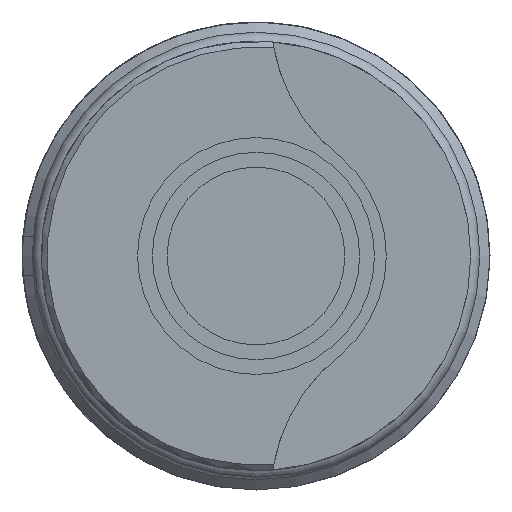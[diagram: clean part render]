
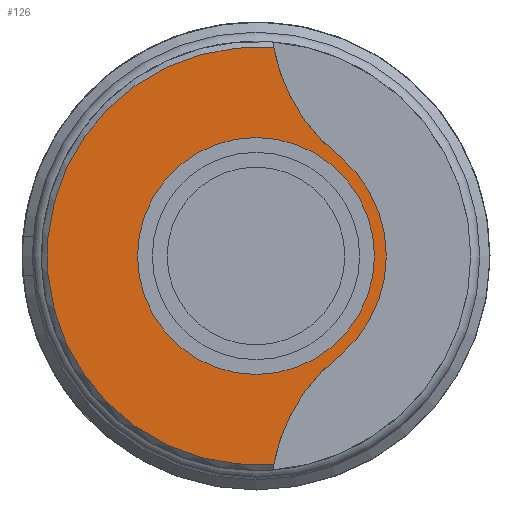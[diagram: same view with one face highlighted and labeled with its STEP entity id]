
A CAD part, left-side view. The second image highlights one B-rep face of the part: STEP entity #126.
In plain terms, the highlighted planar face has unit normal (-1, 0, 0).
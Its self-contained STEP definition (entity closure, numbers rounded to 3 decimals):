
#126 = ADVANCED_FACE( '', ( #277, #278 ), #279, .F. );
#277 = FACE_OUTER_BOUND( '', #444, .T. );
#278 = FACE_BOUND( '', #445, .T. );
#279 = PLANE( '', #446 );
#444 = EDGE_LOOP( '', ( #734, #735, #736, #737 ) );
#445 = EDGE_LOOP( '', ( #738 ) );
#446 = AXIS2_PLACEMENT_3D( '', #739, #740, #741 );
#734 = ORIENTED_EDGE( '', *, *, #974, .F. );
#735 = ORIENTED_EDGE( '', *, *, #990, .T. );
#736 = ORIENTED_EDGE( '', *, *, #914, .F. );
#737 = ORIENTED_EDGE( '', *, *, #991, .T. );
#738 = ORIENTED_EDGE( '', *, *, #992, .T. );
#739 = CARTESIAN_POINT( '', ( 0., 4., 0. ) );
#740 = DIRECTION( '', ( 1., 0., 0. ) );
#741 = DIRECTION( '', ( 0., 0., -1. ) );
#914 = EDGE_CURVE( '', #1079, #1080, #1081, .T. );
#974 = EDGE_CURVE( '', #1170, #1172, #1173, .T. );
#990 = EDGE_CURVE( '', #1170, #1080, #1194, .T. );
#991 = EDGE_CURVE( '', #1079, #1172, #1195, .T. );
#992 = EDGE_CURVE( '', #1196, #1196, #1197, .T. );
#1079 = VERTEX_POINT( '', #1305 );
#1080 = VERTEX_POINT( '', #1306 );
#1081 = CIRCLE( '', #1307, 4.4 );
#1170 = VERTEX_POINT( '', #1433 );
#1172 = VERTEX_POINT( '', #1438 );
#1173 = CIRCLE( '', #1439, 7.05 );
#1194 = CIRCLE( '', #1470, 6. );
#1195 = CIRCLE( '', #1471, 6. );
#1196 = VERTEX_POINT( '', #1472 );
#1197 = CIRCLE( '', #1473, 4. );
#1305 = CARTESIAN_POINT( '', ( 0., -2.893, 3.316 ) );
#1306 = CARTESIAN_POINT( '', ( 0., -2.893, -3.316 ) );
#1307 = AXIS2_PLACEMENT_3D( '', #1565, #1566, #1567 );
#1433 = CARTESIAN_POINT( '', ( 0., -0.599, -7.025 ) );
#1438 = CARTESIAN_POINT( '', ( 0., -0.599, 7.025 ) );
#1439 = AXIS2_PLACEMENT_3D( '', #1636, #1637, #1638 );
#1470 = AXIS2_PLACEMENT_3D( '', #1649, #1650, #1651 );
#1471 = AXIS2_PLACEMENT_3D( '', #1652, #1653, #1654 );
#1472 = CARTESIAN_POINT( '', ( 0., 0., -4. ) );
#1473 = AXIS2_PLACEMENT_3D( '', #1655, #1656, #1657 );
#1565 = CARTESIAN_POINT( '', ( 0., 0., 0. ) );
#1566 = DIRECTION( '', ( 1., 0., 0. ) );
#1567 = DIRECTION( '', ( 0., 0., -1. ) );
#1636 = CARTESIAN_POINT( '', ( 0., 0., 0. ) );
#1637 = DIRECTION( '', ( 1., 0., 0. ) );
#1638 = DIRECTION( '', ( 0., 0., -1. ) );
#1649 = CARTESIAN_POINT( '', ( 0., -6.5, -8.11 ) );
#1650 = DIRECTION( '', ( 1., 0., 0. ) );
#1651 = DIRECTION( '', ( 0., 0., -1. ) );
#1652 = CARTESIAN_POINT( '', ( 0., -6.5, 8.11 ) );
#1653 = DIRECTION( '', ( 1., 0., 0. ) );
#1654 = DIRECTION( '', ( 0., 0., -1. ) );
#1655 = CARTESIAN_POINT( '', ( 0., 0., 0. ) );
#1656 = DIRECTION( '', ( 1., 0., 0. ) );
#1657 = DIRECTION( '', ( 0., 0., -1. ) );
